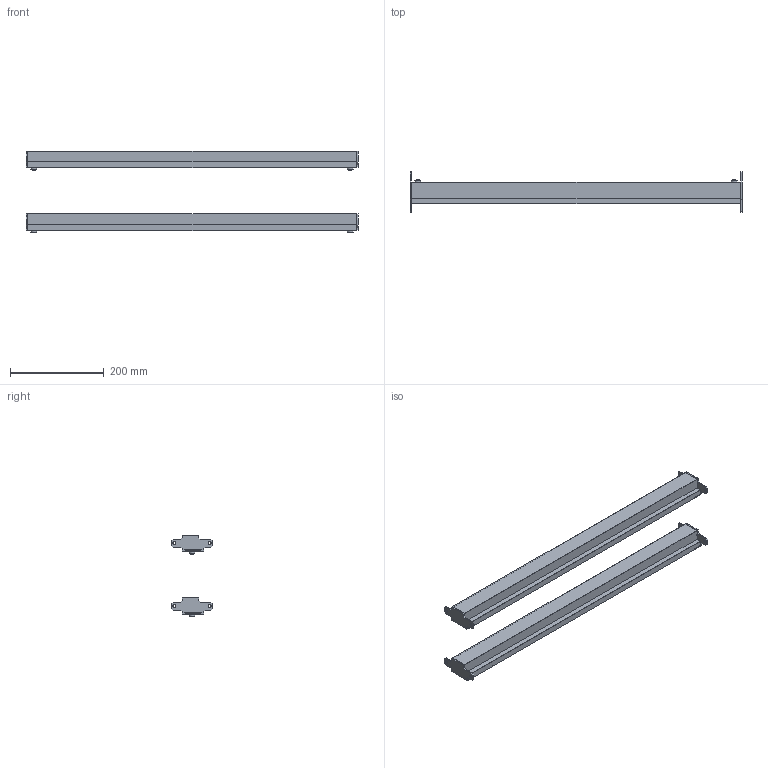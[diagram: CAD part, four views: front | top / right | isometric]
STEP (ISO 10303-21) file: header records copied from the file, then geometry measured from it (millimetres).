
FILE_DESCRIPTION (( 'STEP AP214' ), '1' );
FILE_NAME ('FO-00-PRHV-080 Ïðîôèëü ãîðèçîíòàëüíûé âñòðîåííîãî îòñåêà ãëóáèíà 800 ìì (2 øò.óïàê.).STEP', '2025-07-31T07:14:02', ( '' ), ( '' ), 'SwSTEP 2.0', 'SolidWorks 2023', '' );
FILE_SCHEMA (( 'AUTOMOTIVE_DESIGN' ));
Length unit declared in the file: millimetre
Products named in the file (2): FO-00-PRHV-080 Профиль горизонтальный встроенного отсека глубина 800 мм (2 шт.упак.); Профиль горизонтальный встроенного отсека 800 мм
Assembly tree (2 placements, depth 2):
  FO-00-PRHV-080 Профиль горизонтальный встроенного отсека глубина 800 мм (2 шт.упак.)
    Профиль горизонтальный встроенного отсека 800 мм  x2
Bounding box: 708 x 87 x 174.73 mm (x, y, z)
Volume: 347712.3 mm3; surface area: 434918.2 mm2
Topology: 2 solids, 2 shells, 1032 faces, 2940 edges, 1944 vertices
Faces by surface type: plane 672, cylinder 328, cone 32
Entity records: 17253 total; most frequent: CARTESIAN_POINT 2963, ORIENTED_EDGE 2940, DIRECTION 2856, EDGE_CURVE 1470, VECTOR 1126, LINE 1126, VERTEX_POINT 972, AXIS2_PLACEMENT_3D 865
